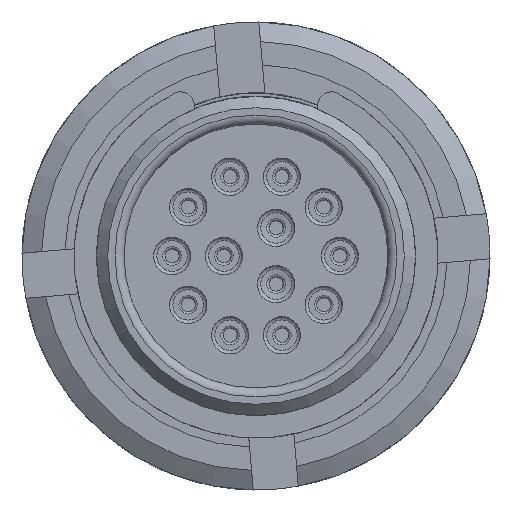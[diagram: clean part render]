
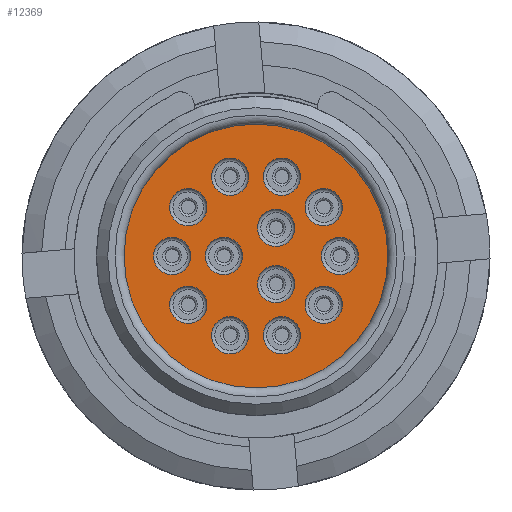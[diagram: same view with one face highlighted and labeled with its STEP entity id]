
A CAD part, left-side view. The second image highlights one B-rep face of the part: STEP entity #12369.
In plain terms, the highlighted planar face has unit normal (-1, 0, 0).
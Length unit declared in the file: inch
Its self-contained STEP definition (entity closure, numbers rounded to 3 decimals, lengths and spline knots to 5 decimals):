
#940=FACE_BOUND('',#3198,.T.);
#941=FACE_BOUND('',#3199,.T.);
#942=FACE_BOUND('',#3200,.T.);
#943=FACE_BOUND('',#3201,.T.);
#944=FACE_BOUND('',#3202,.T.);
#945=FACE_BOUND('',#3203,.T.);
#946=FACE_BOUND('',#3204,.T.);
#947=FACE_BOUND('',#3205,.T.);
#948=FACE_BOUND('',#3206,.T.);
#949=FACE_BOUND('',#3207,.T.);
#950=FACE_BOUND('',#3208,.T.);
#951=FACE_BOUND('',#3209,.T.);
#952=FACE_BOUND('',#3210,.T.);
#1229=PLANE('',#13641);
#2447=FACE_OUTER_BOUND('',#3197,.T.);
#3197=EDGE_LOOP('',(#11078));
#3198=EDGE_LOOP('',(#11079));
#3199=EDGE_LOOP('',(#11080));
#3200=EDGE_LOOP('',(#11081));
#3201=EDGE_LOOP('',(#11082));
#3202=EDGE_LOOP('',(#11083));
#3203=EDGE_LOOP('',(#11084));
#3204=EDGE_LOOP('',(#11085));
#3205=EDGE_LOOP('',(#11086));
#3206=EDGE_LOOP('',(#11087));
#3207=EDGE_LOOP('',(#11088));
#3208=EDGE_LOOP('',(#11089));
#3209=EDGE_LOOP('',(#11090));
#3210=EDGE_LOOP('',(#11091));
#4582=CIRCLE('',#13352,0.22972);
#4734=CIRCLE('',#13580,0.03248);
#4735=CIRCLE('',#13584,0.03248);
#4736=CIRCLE('',#13588,0.03248);
#4737=CIRCLE('',#13592,0.03248);
#4738=CIRCLE('',#13596,0.03248);
#4739=CIRCLE('',#13600,0.03248);
#4740=CIRCLE('',#13604,0.03248);
#4741=CIRCLE('',#13608,0.03248);
#4742=CIRCLE('',#13612,0.03248);
#4743=CIRCLE('',#13616,0.03248);
#4744=CIRCLE('',#13620,0.03248);
#4745=CIRCLE('',#13624,0.03248);
#4754=CIRCLE('',#13638,0.03248);
#5845=VERTEX_POINT('',#26360);
#5987=VERTEX_POINT('',#26789);
#5988=VERTEX_POINT('',#26797);
#5989=VERTEX_POINT('',#26805);
#5990=VERTEX_POINT('',#26813);
#5991=VERTEX_POINT('',#26821);
#5992=VERTEX_POINT('',#26829);
#5993=VERTEX_POINT('',#26837);
#5994=VERTEX_POINT('',#26845);
#5995=VERTEX_POINT('',#26853);
#5996=VERTEX_POINT('',#26861);
#5997=VERTEX_POINT('',#26869);
#5998=VERTEX_POINT('',#26877);
#6005=VERTEX_POINT('',#26901);
#7459=EDGE_CURVE('',#5845,#5845,#4582,.T.);
#7670=EDGE_CURVE('',#5987,#5987,#4734,.T.);
#7674=EDGE_CURVE('',#5988,#5988,#4735,.T.);
#7678=EDGE_CURVE('',#5989,#5989,#4736,.T.);
#7682=EDGE_CURVE('',#5990,#5990,#4737,.T.);
#7686=EDGE_CURVE('',#5991,#5991,#4738,.T.);
#7690=EDGE_CURVE('',#5992,#5992,#4739,.T.);
#7694=EDGE_CURVE('',#5993,#5993,#4740,.T.);
#7698=EDGE_CURVE('',#5994,#5994,#4741,.T.);
#7702=EDGE_CURVE('',#5995,#5995,#4742,.T.);
#7706=EDGE_CURVE('',#5996,#5996,#4743,.T.);
#7710=EDGE_CURVE('',#5997,#5997,#4744,.T.);
#7714=EDGE_CURVE('',#5998,#5998,#4745,.T.);
#7726=EDGE_CURVE('',#6005,#6005,#4754,.T.);
#11078=ORIENTED_EDGE('',*,*,#7459,.F.);
#11079=ORIENTED_EDGE('',*,*,#7726,.T.);
#11080=ORIENTED_EDGE('',*,*,#7710,.T.);
#11081=ORIENTED_EDGE('',*,*,#7702,.T.);
#11082=ORIENTED_EDGE('',*,*,#7694,.T.);
#11083=ORIENTED_EDGE('',*,*,#7686,.T.);
#11084=ORIENTED_EDGE('',*,*,#7678,.T.);
#11085=ORIENTED_EDGE('',*,*,#7670,.T.);
#11086=ORIENTED_EDGE('',*,*,#7674,.T.);
#11087=ORIENTED_EDGE('',*,*,#7682,.T.);
#11088=ORIENTED_EDGE('',*,*,#7690,.T.);
#11089=ORIENTED_EDGE('',*,*,#7698,.T.);
#11090=ORIENTED_EDGE('',*,*,#7706,.T.);
#11091=ORIENTED_EDGE('',*,*,#7714,.T.);
#12369=ADVANCED_FACE('',(#2447,#940,#941,#942,#943,#944,#945,#946,#947,
#948,#949,#950,#951,#952),#1229,.F.);
#13352=AXIS2_PLACEMENT_3D('',#26361,#15898,#15899);
#13580=AXIS2_PLACEMENT_3D('',#26790,#16413,#16414);
#13584=AXIS2_PLACEMENT_3D('',#26798,#16424,#16425);
#13588=AXIS2_PLACEMENT_3D('',#26806,#16435,#16436);
#13592=AXIS2_PLACEMENT_3D('',#26814,#16446,#16447);
#13596=AXIS2_PLACEMENT_3D('',#26822,#16457,#16458);
#13600=AXIS2_PLACEMENT_3D('',#26830,#16468,#16469);
#13604=AXIS2_PLACEMENT_3D('',#26838,#16479,#16480);
#13608=AXIS2_PLACEMENT_3D('',#26846,#16490,#16491);
#13612=AXIS2_PLACEMENT_3D('',#26854,#16501,#16502);
#13616=AXIS2_PLACEMENT_3D('',#26862,#16512,#16513);
#13620=AXIS2_PLACEMENT_3D('',#26870,#16523,#16524);
#13624=AXIS2_PLACEMENT_3D('',#26878,#16534,#16535);
#13638=AXIS2_PLACEMENT_3D('',#26902,#16565,#16566);
#13641=AXIS2_PLACEMENT_3D('',#26908,#16574,#16575);
#15898=DIRECTION('center_axis',(1.,0.,0.));
#15899=DIRECTION('ref_axis',(0.,0.,1.));
#16413=DIRECTION('center_axis',(1.,0.,0.));
#16414=DIRECTION('ref_axis',(0.,0.,-1.));
#16424=DIRECTION('center_axis',(1.,0.,0.));
#16425=DIRECTION('ref_axis',(0.,0.,-1.));
#16435=DIRECTION('center_axis',(1.,0.,0.));
#16436=DIRECTION('ref_axis',(0.,0.,-1.));
#16446=DIRECTION('center_axis',(1.,0.,0.));
#16447=DIRECTION('ref_axis',(0.,0.,-1.));
#16457=DIRECTION('center_axis',(1.,0.,0.));
#16458=DIRECTION('ref_axis',(0.,0.,-1.));
#16468=DIRECTION('center_axis',(1.,0.,0.));
#16469=DIRECTION('ref_axis',(0.,0.,-1.));
#16479=DIRECTION('center_axis',(1.,0.,0.));
#16480=DIRECTION('ref_axis',(0.,0.,-1.));
#16490=DIRECTION('center_axis',(1.,0.,0.));
#16491=DIRECTION('ref_axis',(0.,0.,-1.));
#16501=DIRECTION('center_axis',(1.,0.,0.));
#16502=DIRECTION('ref_axis',(0.,0.,-1.));
#16512=DIRECTION('center_axis',(1.,0.,0.));
#16513=DIRECTION('ref_axis',(0.,0.,-1.));
#16523=DIRECTION('center_axis',(1.,0.,0.));
#16524=DIRECTION('ref_axis',(0.,0.,-1.));
#16534=DIRECTION('center_axis',(1.,0.,0.));
#16535=DIRECTION('ref_axis',(0.,0.,-1.));
#16565=DIRECTION('center_axis',(1.,0.,0.));
#16566=DIRECTION('ref_axis',(0.,0.,-1.));
#16574=DIRECTION('center_axis',(1.,0.,0.));
#16575=DIRECTION('ref_axis',(0.,0.,-1.));
#26360=CARTESIAN_POINT('',(0.07992,0.,-0.22972));
#26361=CARTESIAN_POINT('Origin',(0.07992,0.,0.));
#26789=CARTESIAN_POINT('',(0.07992,-0.118,-0.05252));
#26790=CARTESIAN_POINT('Origin',(0.07992,-0.118,-0.085));
#26797=CARTESIAN_POINT('',(0.07992,-0.146,0.03248));
#26798=CARTESIAN_POINT('Origin',(0.07992,-0.146,0.));
#26805=CARTESIAN_POINT('',(0.07992,-0.118,0.11748));
#26806=CARTESIAN_POINT('Origin',(0.07992,-0.118,0.085));
#26813=CARTESIAN_POINT('',(0.07992,-0.045,0.17048));
#26814=CARTESIAN_POINT('Origin',(0.07992,-0.045,0.138));
#26821=CARTESIAN_POINT('',(0.07992,-0.035,0.08148));
#26822=CARTESIAN_POINT('Origin',(0.07992,-0.035,0.049));
#26829=CARTESIAN_POINT('',(0.07992,-0.035,-0.01652));
#26830=CARTESIAN_POINT('Origin',(0.07992,-0.035,-0.049));
#26837=CARTESIAN_POINT('',(0.07992,-0.045,-0.10552));
#26838=CARTESIAN_POINT('Origin',(0.07992,-0.045,-0.138));
#26845=CARTESIAN_POINT('',(0.07992,0.045,-0.10552));
#26846=CARTESIAN_POINT('Origin',(0.07992,0.045,-0.138));
#26853=CARTESIAN_POINT('',(0.07992,0.045,0.17048));
#26854=CARTESIAN_POINT('Origin',(0.07992,0.045,0.138));
#26861=CARTESIAN_POINT('',(0.07992,0.118,0.11748));
#26862=CARTESIAN_POINT('Origin',(0.07992,0.118,0.085));
#26869=CARTESIAN_POINT('',(0.07992,0.118,-0.05252));
#26870=CARTESIAN_POINT('Origin',(0.07992,0.118,-0.085));
#26877=CARTESIAN_POINT('',(0.07992,0.146,0.03248));
#26878=CARTESIAN_POINT('Origin',(0.07992,0.146,0.));
#26901=CARTESIAN_POINT('',(0.07992,0.05591,0.03248));
#26902=CARTESIAN_POINT('Origin',(0.07992,0.05591,
0.));
#26908=CARTESIAN_POINT('Origin',(0.07992,0.,0.));
